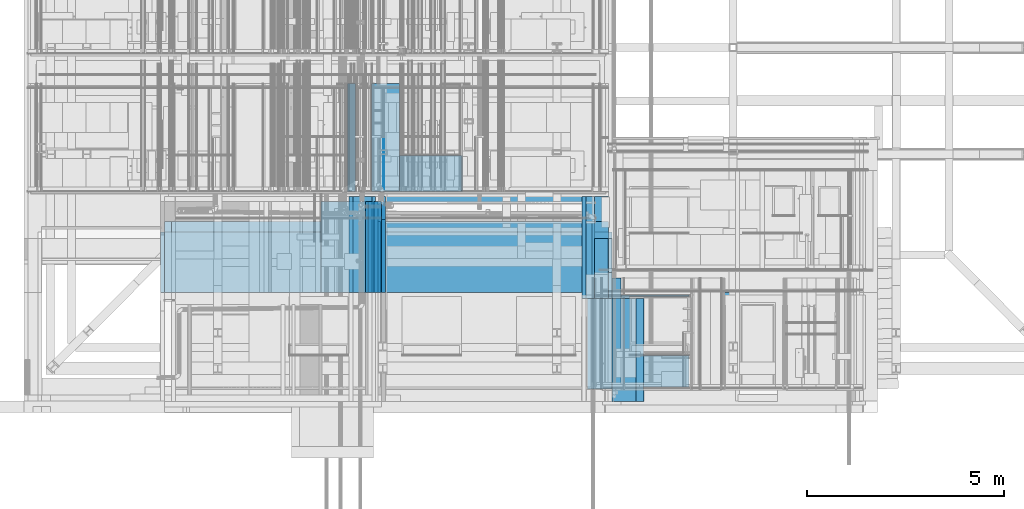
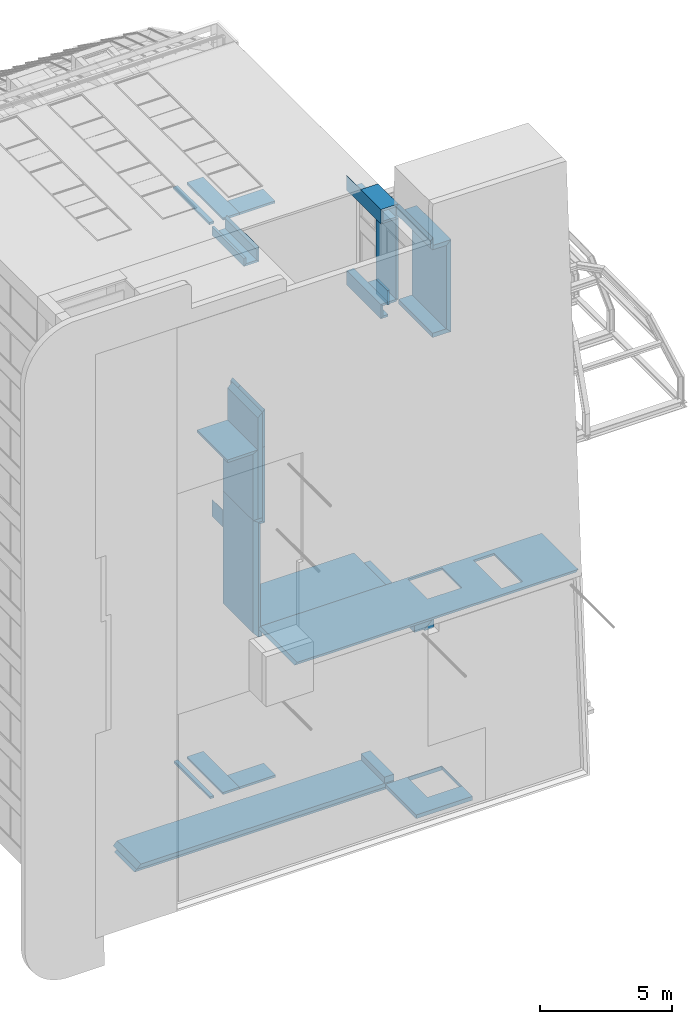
# One storey, part 13 of 583: 44 walls, 5 openings.
"""IFC2X3 building model written with IfcOpenShell, lengths in metres."""

from ifc_helpers import new_model, entity, si_unit, converted_unit, derived_unit, money_unit, direction, frame, frame_2d, origin_with_axes, place, context, subcontext, project, spatial, polyline, rectangle, outline, extrude, material, type_object, element, save


model = new_model("IFC2X3")

# Units and contexts
model_context = context("Model", 3, precision=1e-05, world=origin_with_axes(), true_north=direction((0.0, 1.0)))
body_context = subcontext(model_context, "Body", "Model", "MODEL_VIEW", scale=1.0)
ifc_project = project(units=[si_unit("LENGTHUNIT", "METRE"), si_unit("AREAUNIT", "SQUARE_METRE"), si_unit("VOLUMEUNIT", "CUBIC_METRE"), si_unit("ABSORBEDDOSEUNIT", "GRAY"), si_unit("AMOUNTOFSUBSTANCEUNIT", "MOLE"), si_unit("DOSEEQUIVALENTUNIT", "SIEVERT"), si_unit("ELECTRICCAPACITANCEUNIT", "FARAD"), si_unit("ELECTRICCHARGEUNIT", "COULOMB"), si_unit("ELECTRICCONDUCTANCEUNIT", "SIEMENS"), si_unit("ELECTRICCURRENTUNIT", "AMPERE"), si_unit("ELECTRICRESISTANCEUNIT", "OHM"), si_unit("ELECTRICVOLTAGEUNIT", "VOLT"), si_unit("ENERGYUNIT", "JOULE"), si_unit("FORCEUNIT", "NEWTON"), si_unit("FREQUENCYUNIT", "HERTZ"), si_unit("ILLUMINANCEUNIT", "LUX"), si_unit("INDUCTANCEUNIT", "HENRY"), si_unit("LUMINOUSFLUXUNIT", "LUMEN"), si_unit("LUMINOUSINTENSITYUNIT", "CANDELA"), si_unit("MAGNETICFLUXDENSITYUNIT", "TESLA"), si_unit("MAGNETICFLUXUNIT", "WEBER"), si_unit("MASSUNIT", "GRAM"), converted_unit("PLANEANGLEUNIT", "degree", entity("IfcReal", 0.0174532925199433), si_unit("PLANEANGLEUNIT", "RADIAN"), dimensions=[0, 0, 0, 0, 0, 0, 0]), si_unit("POWERUNIT", "WATT"), si_unit("PRESSUREUNIT", "PASCAL"), si_unit("RADIOACTIVITYUNIT", "BECQUEREL"), si_unit("SOLIDANGLEUNIT", "STERADIAN"), si_unit("THERMODYNAMICTEMPERATUREUNIT", "KELVIN"), si_unit("TIMEUNIT", "SECOND"), derived_unit("ACCELERATIONUNIT", [(si_unit("LENGTHUNIT", "METRE"), 1), (si_unit("TIMEUNIT", "SECOND"), -2)]), derived_unit("ANGULARVELOCITYUNIT", [(converted_unit("PLANEANGLEUNIT", "degree", entity("IfcReal", 0.0174532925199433), si_unit("PLANEANGLEUNIT", "RADIAN"), dimensions=[0, 0, 0, 0, 0, 0, 0]), 1), (si_unit("TIMEUNIT", "SECOND"), -1)]), derived_unit("CURVATUREUNIT", [(converted_unit("PLANEANGLEUNIT", "degree", entity("IfcReal", 0.0174532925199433), si_unit("PLANEANGLEUNIT", "RADIAN"), dimensions=[0, 0, 0, 0, 0, 0, 0]), 1), (si_unit("LENGTHUNIT", "METRE"), -1)]), derived_unit("DYNAMICVISCOSITYUNIT", [(si_unit("PRESSUREUNIT", "PASCAL"), 1), (si_unit("TIMEUNIT", "SECOND"), 1)]), derived_unit("HEATFLUXDENSITYUNIT", [(si_unit("POWERUNIT", "WATT"), 1), (si_unit("LENGTHUNIT", "METRE"), -2)]), derived_unit("HEATINGVALUEUNIT", [(si_unit("ENERGYUNIT", "JOULE"), 1), (si_unit("MASSUNIT", "GRAM"), -1)]), derived_unit("INTEGERCOUNTRATEUNIT", [(si_unit("TIMEUNIT", "SECOND"), -1)]), derived_unit("IONCONCENTRATIONUNIT", [(si_unit("MASSUNIT", "GRAM"), 1), (si_unit("VOLUMEUNIT", "CUBIC_METRE"), -1)]), derived_unit("ISOTHERMALMOISTURECAPACITYUNIT", [(si_unit("VOLUMEUNIT", "CUBIC_METRE"), 1), (si_unit("MASSUNIT", "GRAM"), -1)]), derived_unit("KINEMATICVISCOSITYUNIT", [(si_unit("AREAUNIT", "SQUARE_METRE"), 1), (si_unit("TIMEUNIT", "SECOND"), -1)]), derived_unit("LINEARFORCEUNIT", [(si_unit("FORCEUNIT", "NEWTON"), 1), (si_unit("LENGTHUNIT", "METRE"), -1)]), derived_unit("LINEARMOMENTUNIT", [(si_unit("FORCEUNIT", "NEWTON"), 1), (si_unit("LENGTHUNIT", "METRE"), -1)]), derived_unit("LINEARSTIFFNESSUNIT", [(si_unit("FORCEUNIT", "NEWTON"), 1), (si_unit("LENGTHUNIT", "METRE"), -1)]), derived_unit("LINEARVELOCITYUNIT", [(si_unit("LENGTHUNIT", "METRE"), 1), (si_unit("TIMEUNIT", "SECOND"), -1)]), derived_unit("LUMINOUSINTENSITYDISTRIBUTIONUNIT", [(si_unit("LUMINOUSINTENSITYUNIT", "CANDELA"), 1), (si_unit("LUMINOUSFLUXUNIT", "LUMEN"), -1)]), derived_unit("MASSDENSITYUNIT", [(si_unit("MASSUNIT", "GRAM"), 1), (si_unit("VOLUMEUNIT", "CUBIC_METRE"), -1)]), derived_unit("MASSFLOWRATEUNIT", [(si_unit("MASSUNIT", "GRAM"), 1), (si_unit("TIMEUNIT", "SECOND"), -1)]), derived_unit("MASSPERLENGTHUNIT", [(si_unit("MASSUNIT", "GRAM"), 1), (si_unit("LENGTHUNIT", "METRE"), -1)]), derived_unit("MODULUSOFELASTICITYUNIT", [(si_unit("FORCEUNIT", "NEWTON"), 1), (si_unit("AREAUNIT", "SQUARE_METRE"), -1)]), derived_unit("MODULUSOFLINEARSUBGRADEREACTIONUNIT", [(si_unit("FORCEUNIT", "NEWTON"), 1), (si_unit("LENGTHUNIT", "METRE"), -2)]), derived_unit("MODULUSOFROTATIONALSUBGRADEREACTIONUNIT", [(si_unit("FORCEUNIT", "NEWTON"), 1), (si_unit("LENGTHUNIT", "METRE"), 1)]), derived_unit("MODULUSOFSUBGRADEREACTIONUNIT", [(si_unit("FORCEUNIT", "NEWTON"), 1), (si_unit("VOLUMEUNIT", "CUBIC_METRE"), -1)]), derived_unit("MOISTUREDIFFUSIVITYUNIT", [(si_unit("VOLUMEUNIT", "CUBIC_METRE"), 1), (si_unit("TIMEUNIT", "SECOND"), -1)]), derived_unit("MOLECULARWEIGHTUNIT", [(si_unit("MASSUNIT", "GRAM"), 1), (si_unit("AMOUNTOFSUBSTANCEUNIT", "MOLE"), -1)]), derived_unit("PLANARFORCEUNIT", [(si_unit("FORCEUNIT", "NEWTON"), 1), (si_unit("LENGTHUNIT", "METRE"), -2)]), derived_unit("ROTATIONALFREQUENCYUNIT", [(si_unit("TIMEUNIT", "SECOND"), -1)]), derived_unit("ROTATIONALMASSUNIT", [(si_unit("MASSUNIT", "GRAM"), 1), (si_unit("LENGTHUNIT", "METRE"), 2)]), derived_unit("ROTATIONALSTIFFNESSUNIT", [(si_unit("FORCEUNIT", "NEWTON"), 1), (si_unit("LENGTHUNIT", "METRE"), 1), (converted_unit("PLANEANGLEUNIT", "degree", entity("IfcReal", 0.0174532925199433), si_unit("PLANEANGLEUNIT", "RADIAN"), dimensions=[0, 0, 0, 0, 0, 0, 0]), -1)]), derived_unit("SECTIONAREAINTEGRALUNIT", [(si_unit("LENGTHUNIT", "METRE"), 5)]), derived_unit("SECTIONMODULUSUNIT", [(si_unit("LENGTHUNIT", "METRE"), 3)]), derived_unit("SHEARMODULUSUNIT", [(si_unit("FORCEUNIT", "NEWTON"), 1), (si_unit("AREAUNIT", "SQUARE_METRE"), -1)]), derived_unit("SOUNDPOWERUNIT", [(si_unit("ENERGYUNIT", "JOULE"), 1), (si_unit("TIMEUNIT", "SECOND"), -1)]), derived_unit("SPECIFICHEATCAPACITYUNIT", [(si_unit("FORCEUNIT", "NEWTON"), 1), (si_unit("MASSUNIT", "GRAM"), -1), (si_unit("THERMODYNAMICTEMPERATUREUNIT", "KELVIN"), -1)]), derived_unit("TEMPERATUREGRADIENTUNIT", [(si_unit("THERMODYNAMICTEMPERATUREUNIT", "KELVIN"), 1), (si_unit("LENGTHUNIT", "METRE"), -1)]), derived_unit("THERMALADMITTANCEUNIT", [(si_unit("POWERUNIT", "WATT"), 1), (si_unit("AREAUNIT", "SQUARE_METRE"), -1), (si_unit("THERMODYNAMICTEMPERATUREUNIT", "KELVIN"), -1)]), derived_unit("THERMALCONDUCTANCEUNIT", [(si_unit("POWERUNIT", "WATT"), 1), (si_unit("LENGTHUNIT", "METRE"), -1), (si_unit("THERMODYNAMICTEMPERATUREUNIT", "KELVIN"), -1)]), derived_unit("THERMALEXPANSIONCOEFFICIENTUNIT", [(si_unit("THERMODYNAMICTEMPERATUREUNIT", "KELVIN"), -1)]), derived_unit("THERMALRESISTANCEUNIT", [(si_unit("AREAUNIT", "SQUARE_METRE"), 1), (si_unit("POWERUNIT", "WATT"), -1)]), derived_unit("THERMALTRANSMITTANCEUNIT", [(si_unit("POWERUNIT", "WATT"), 1), (si_unit("AREAUNIT", "SQUARE_METRE"), -1), (si_unit("THERMODYNAMICTEMPERATUREUNIT", "KELVIN"), -1)]), derived_unit("TORQUEUNIT", [(si_unit("FORCEUNIT", "NEWTON"), 1), (si_unit("LENGTHUNIT", "METRE"), 1)]), derived_unit("VAPORPERMEABILITYUNIT", [(si_unit("MASSUNIT", "GRAM"), 1), (si_unit("TIMEUNIT", "SECOND"), -1)]), derived_unit("VOLUMETRICFLOWRATEUNIT", [(si_unit("VOLUMEUNIT", "CUBIC_METRE"), 1), (si_unit("TIMEUNIT", "SECOND"), -1)]), derived_unit("WARPINGCONSTANTUNIT", [(si_unit("LENGTHUNIT", "METRE"), 6)]), derived_unit("WARPINGMOMENTUNIT", [(si_unit("FORCEUNIT", "NEWTON"), 1), (si_unit("LENGTHUNIT", "METRE"), 2)]), money_unit("GBP")], contexts=[model_context])

# Site, building, storey
site_placement = place(None, origin_with_axes())
site = spatial("IfcSite", under=ifc_project, at=site_placement, Name="Site", CompositionType="ELEMENT")
building_placement = place(site_placement, origin_with_axes())
building = spatial("IfcBuilding", under=site, at=building_placement, Name="Building01", CompositionType="ELEMENT")
storey_placement = place(building_placement, frame((0.0, 0.0, 20.78), z_axis=(0.0, 0.0, 1.0), x_axis=(1.0, 0.0, 0.0)))
storey = spatial("IfcBuildingStorey", under=building, at=storey_placement, Name="RL", CompositionType="ELEMENT", Elevation=20.78)

# Wall, openings
ifc_material_1 = material(Name="A_BSUK_WallsExternal_Brick")
wall_type_1 = type_object("IfcWallType", Name="A-Walls-ExternalBrick", PredefinedType="NOTDEFINED")
wall_1_placement = place(storey_placement, frame((8.971523, -0.16, -11.336962), z_axis=(0.0, 1.0, 0.0), x_axis=(1.0, 0.0, 3.756e-05)))
wall_1 = element("IfcWall", 1, at=wall_1_placement, inside=storey, type_object=wall_type_1, material=ifc_material_1, Name="A-Walls-ExternalBrick", ObjectType="A-Walls-ExternalBrick", context=body_context, shape_type="SweptSolid", body=[
    extrude(outline(polyline([(12.194522, 0.1), (-0.1, 0.1), (0.0, 0.0), (12.290885, 0.0), (12.194522, 0.1)])), origin_with_axes(), (0.0, 0.0, 1.0), 2.76),
])
opening_1_placement = place(wall_1_placement, frame((9.152584, 0.0, 0.358), z_axis=(0.0, 0.0, 1.0), x_axis=(1.0, 0.0, 0.0)))
element("IfcOpeningElement", 2, at=opening_1_placement, cuts=wall_1, Name="Opening", ObjectType="Opening", context=body_context, shape_type="SweptSolid", body=[
    extrude(rectangle(XDim=0.909, YDim=2.142, at=frame_2d((-0.4545, 1.071), x_axis=(-1.0, 0.0))), frame((0.0, 0.0, 0.0), z_axis=(0.0, 1.0, 0.0), x_axis=(-1.0, 0.0, 0.0)), (3.756e-05, 0.0, 1.0), 0.1),
])
opening_2_placement = place(wall_1_placement, frame((6.373289, 0.0, 1.458), z_axis=(0.0, 0.0, 1.0), x_axis=(1.0, 0.0, 0.0)))
element("IfcOpeningElement", 3, at=opening_2_placement, cuts=wall_1, Name="Opening", ObjectType="Opening", context=body_context, shape_type="SweptSolid", body=[
    extrude(rectangle(XDim=1.2, YDim=1.5, at=frame_2d((-0.75, 0.6), x_axis=(0.0, -1.0))), frame((0.0, 0.0, 0.0), z_axis=(0.0, 1.0, 0.0), x_axis=(-1.0, 0.0, 0.0)), (3.756e-05, 0.0, 1.0), 0.1),
])
opening_3_placement = place(wall_1_placement, frame((6.373289, 0.0, 1.158), z_axis=(0.0, 0.0, 1.0), x_axis=(1.0, 0.0, 0.0)))
element("IfcOpeningElement", 4, at=opening_3_placement, cuts=wall_1, Name="Opening", ObjectType="Opening", context=body_context, shape_type="SweptSolid", body=[
    extrude(rectangle(XDim=0.3, YDim=1.5, at=frame_2d((-0.75, 0.15), x_axis=(0.0, -1.0))), frame((0.0, 0.0, 0.0), z_axis=(0.0, 1.0, 0.0), x_axis=(-1.0, 0.0, 0.0)), (3.756e-05, 0.0, 1.0), 0.1),
])

# Walls
wall_2_placement = place(storey_placement, frame((14.914749, -0.16, 6.201733), z_axis=(0.0, 1.0, 0.0), x_axis=(-0.0148485, 0.0, -0.99988976)))
element("IfcWall", 5, at=wall_2_placement, inside=storey, type_object=wall_type_1, material=ifc_material_1, Name="A-Walls-ExternalBrick", ObjectType="A-Walls-ExternalBrick", context=body_context, shape_type="SweptSolid", body=[
    extrude(outline(polyline([(0.453506, 0.1), (0.101508, 0.1), (0.0, 0.0), (0.552027, 0.0), (0.453506, 0.1)])), origin_with_axes(), (0.0, 0.0, 1.0), 2.6),
])
wall_3_placement = place(storey_placement, frame((14.897172, -0.16, 1.791797), z_axis=(0.0, 1.0, 0.0), x_axis=(1.0, 0.0, 0.0)))
element("IfcWall", 6, at=wall_3_placement, inside=storey, type_object=wall_type_1, material=ifc_material_1, Name="A-Walls-ExternalBrick", ObjectType="A-Walls-ExternalBrick", context=body_context, shape_type="SweptSolid", body=[
    extrude(outline(polyline([(0.797851, 0.2), (0.0, 0.2), (0.0, 0.0), (0.598323, 0.0), (0.797851, 0.2)])), origin_with_axes(), (0.0, 0.0, 1.0), 2.6),
])
wall_4_placement = place(storey_placement, frame((15.495495, -0.16, 1.791797), z_axis=(0.0, 1.0, 0.0), x_axis=(0.00236365, 0.0, 0.99999721)))
element("IfcWall", 7, at=wall_4_placement, inside=storey, type_object=wall_type_1, material=ifc_material_1, Name="A-Walls-ExternalBrick", ObjectType="A-Walls-ExternalBrick", context=body_context, shape_type="SweptSolid", body=[
    extrude(outline(polyline([(4.058424, 0.2), (-0.199528, 0.2), (0.0, 0.0), (3.857958, 0.0), (4.058424, 0.2)])), origin_with_axes(), (0.0, 0.0, 1.0), 2.6),
])
wall_5_placement = place(storey_placement, frame((15.504614, -0.16, 5.649745), z_axis=(0.0, 1.0, 0.0), x_axis=(-1.0, 0.0, 3.652e-05)))
element("IfcWall", 8, at=wall_5_placement, inside=storey, type_object=wall_type_1, material=ifc_material_1, Name="A-Walls-ExternalBrick", ObjectType="A-Walls-ExternalBrick", context=body_context, shape_type="SweptSolid", body=[
    extrude(outline(polyline([(-0.200466, 0.2), (0.0, 0.0), (0.598062, 0.0), (0.598062, 0.2), (-0.200466, 0.2)])), origin_with_axes(), (0.0, 0.0, 1.0), 2.6),
])
wall_6_placement = place(storey_placement, frame((14.9, 3.099759, 1.15), z_axis=(0.0, 1.0, 0.0), x_axis=(0.0, 0.0, 1.0)))
element("IfcWall", 9, at=wall_6_placement, inside=storey, type_object=wall_type_1, material=ifc_material_1, Name="A-Walls-ExternalBrick", ObjectType="A-Walls-ExternalBrick", context=body_context, shape_type="SweptSolid", body=[
    extrude(rectangle(XDim=0.67, YDim=0.1, at=frame_2d((0.335, -0.05), x_axis=(1.0, 0.0))), origin_with_axes(), (0.0, 0.0, 1.0), 0.870241),
])
wall_7_placement = place(storey_placement, frame((8.971346, 2.6, -6.607653), z_axis=(0.0, 1.0, 0.0), x_axis=(3.756e-05, 0.0, -1.0)))
element("IfcWall", 10, at=wall_7_placement, inside=storey, type_object=wall_type_1, material=ifc_material_1, Name="A-Walls-ExternalBrick", ObjectType="A-Walls-ExternalBrick", context=body_context, shape_type="SweptSolid", body=[
    extrude(outline(polyline([(4.829305, 0.1), (-0.1, 0.1), (0.0, 0.0), (4.729309, 0.0), (4.829305, 0.1)])), origin_with_axes(), (0.0, 0.0, 1.0), 2.3),
])
wall_8_placement = place(storey_placement, frame((8.237758, 2.6, 5.534179), z_axis=(0.0, 1.0, 0.0), x_axis=(0.0, 0.0, 1.0)))
element("IfcWall", 11, at=wall_8_placement, inside=storey, type_object=wall_type_1, material=ifc_material_1, Name="A-Walls-ExternalBrick", ObjectType="A-Walls-ExternalBrick", context=body_context, shape_type="SweptSolid", body=[
    extrude(outline(polyline([(0.381054, 0.1), (0.1, 0.1), (0.0, 0.0), (0.38105, 0.0), (0.381054, 0.1)])), origin_with_axes(), (0.0, 0.0, 1.0), 2.43),
])
wall_9_placement = place(storey_placement, frame((8.909531, 2.6, 5.534179), z_axis=(0.0, 1.0, 0.0), x_axis=(-1.0, 0.0, 0.0)))
element("IfcWall", 12, at=wall_9_placement, inside=storey, type_object=wall_type_1, material=ifc_material_1, Name="A-Walls-ExternalBrick", ObjectType="A-Walls-ExternalBrick", context=body_context, shape_type="SweptSolid", body=[
    extrude(outline(polyline([(0.571773, 0.1), (0.1, 0.1), (0.0, 0.0), (0.671773, 0.0), (0.571773, 0.1)])), origin_with_axes(), (0.0, 0.0, 1.0), 2.43),
])
wall_10_placement = place(storey_placement, frame((8.909531, 2.6, 6.201285), z_axis=(0.0, 1.0, 0.0), x_axis=(0.0, 0.0, -1.0)))
element("IfcWall", 13, at=wall_10_placement, inside=storey, type_object=wall_type_1, material=ifc_material_1, Name="A-Walls-ExternalBrick", ObjectType="A-Walls-ExternalBrick", context=body_context, shape_type="SweptSolid", body=[
    extrude(outline(polyline([(0.567106, 0.1), (0.1, 0.1), (0.0, 0.0), (0.667106, 0.0), (0.567106, 0.1)])), origin_with_axes(), (0.0, 0.0, 1.0), 2.43),
])
wall_11_placement = place(storey_placement, frame((14.134094, 2.44, 6.201639), z_axis=(0.0, 1.0, 0.0), x_axis=(1.0, 0.0, 0.0)))
element("IfcWall", 14, at=wall_11_placement, inside=storey, type_object=wall_type_1, material=ifc_material_1, Name="A-Walls-ExternalBrick", ObjectType="A-Walls-ExternalBrick", context=body_context, shape_type="SweptSolid", body=[
    extrude(outline(polyline([(0.665906, 0.1), (0.100006, 0.1), (0.0, 0.0), (0.765906, 0.0), (0.665906, 0.1)])), origin_with_axes(), (0.0, 0.0, 1.0), 1.53),
])
wall_12_placement = place(storey_placement, frame((14.9, 2.44, 6.201639), z_axis=(0.0, 1.0, 0.0), x_axis=(0.0, 0.0, -1.0)))
element("IfcWall", 15, at=wall_12_placement, inside=storey, type_object=wall_type_1, material=ifc_material_1, Name="A-Walls-ExternalBrick", ObjectType="A-Walls-ExternalBrick", context=body_context, shape_type="SweptSolid", body=[
    extrude(outline(polyline([(0.671639, 0.1), (0.1, 0.1), (0.0, 0.0), (0.671639, 0.0), (0.671639, 0.1)])), origin_with_axes(), (0.0, 0.0, 1.0), 1.53),
])
wall_13_placement = place(storey_placement, frame((14.134133, 2.44, 5.52997), z_axis=(0.0, 1.0, 0.0), x_axis=(-5.782e-05, 0.0, 1.0)))
element("IfcWall", 16, at=wall_13_placement, inside=storey, type_object=wall_type_1, material=ifc_material_1, Name="A-Walls-ExternalBrick", ObjectType="A-Walls-ExternalBrick", context=body_context, shape_type="SweptSolid", body=[
    extrude(outline(polyline([(0.571663, 0.1), (0.1, 0.1), (0.0, 0.0), (0.671669, 0.0), (0.571663, 0.1)])), origin_with_axes(), (0.0, 0.0, 1.0), 2.59),
])
wall_14_placement = place(storey_placement, frame((14.45, 2.6, -11.436962), z_axis=(0.0, 1.0, 0.0), x_axis=(-1.0, 0.0, 0.0)))
element("IfcWall", 17, at=wall_14_placement, inside=storey, type_object=wall_type_1, material=ifc_material_1, Name="A-Walls-ExternalBrick", ObjectType="A-Walls-ExternalBrick", context=body_context, shape_type="SweptSolid", body=[
    extrude(outline(polyline([(5.478477, 0.1), (0.0, 0.1), (0.0, 0.0), (5.578473, 0.0), (5.478477, 0.1)])), origin_with_axes(), (0.0, 0.0, 1.0), 2.43),
])
wall_15_placement = place(storey_placement, frame((14.9, 2.6, -20.779321), z_axis=(0.0, 1.0, 0.0), x_axis=(-1.0, 0.0, 0.0)))
element("IfcWall", 18, at=wall_15_placement, inside=storey, type_object=wall_type_1, material=ifc_material_1, Name="A-Walls-ExternalBrick", ObjectType="A-Walls-ExternalBrick", context=body_context, shape_type="SweptSolid", body=[
    extrude(outline(polyline([(11.340668, 0.1), (0.0, 0.1), (0.0, 0.0), (11.440668, 0.0), (11.340668, 0.1)])), origin_with_axes(), (0.0, 0.0, 1.0), 1.53),
])
wall_16_placement = place(storey_placement, frame((14.134296, 2.44, 1.150008), z_axis=(0.0, 1.0, 0.0), x_axis=(0.0, 0.0, 1.0)))
element("IfcWall", 19, at=wall_16_placement, inside=storey, type_object=wall_type_1, material=ifc_material_1, Name="A-Walls-ExternalBrick", ObjectType="A-Walls-ExternalBrick", context=body_context, shape_type="SweptSolid", body=[
    extrude(outline(polyline([(0.569979, 0.1), (0.100006, 0.1), (0.0, 0.0), (0.669985, 0.0), (0.569979, 0.1)])), origin_with_axes(), (0.0, 0.0, 1.0), 2.59),
])
wall_17_placement = place(storey_placement, frame((14.449011, 2.44, 1.150026), z_axis=(0.0, 1.0, 0.0), x_axis=(-1.0, 0.0, -5.782e-05)))
element("IfcWall", 20, at=wall_17_placement, inside=storey, type_object=wall_type_1, material=ifc_material_1, Name="A-Walls-ExternalBrick", ObjectType="A-Walls-ExternalBrick", context=body_context, shape_type="SweptSolid", body=[
    extrude(outline(polyline([(0.214709, 0.1), (0.0, 0.1), (0.0, 0.0), (0.314715, 0.0), (0.214709, 0.1)])), origin_with_axes(), (0.0, 0.0, 1.0), 2.59),
])
wall_18_placement = place(storey_placement, frame((14.449011, 2.44, 1.819974), z_axis=(0.0, 1.0, 0.0), x_axis=(-1.0, 0.0, 5.782e-05)))
element("IfcWall", 21, at=wall_18_placement, inside=storey, type_object=wall_type_1, material=ifc_material_1, Name="A-Walls-ExternalBrick", ObjectType="A-Walls-ExternalBrick", context=body_context, shape_type="SweptSolid", body=[
    extrude(outline(polyline([(0.314715, 0.0), (0.0, 0.0), (0.0, -0.1), (0.214709, -0.1), (0.314715, 0.0)])), origin_with_axes(), (0.0, 0.0, 1.0), 2.59),
])
wall_19_placement = place(storey_placement, frame((14.449011, 2.44, 1.819974), z_axis=(0.0, 1.0, 0.0), x_axis=(1.0, 0.0, 5.782e-05)))
element("IfcWall", 22, at=wall_19_placement, inside=storey, type_object=wall_type_1, material=ifc_material_1, Name="A-Walls-ExternalBrick", ObjectType="A-Walls-ExternalBrick", context=body_context, shape_type="SweptSolid", body=[
    extrude(outline(polyline([(0.348155, 0.1), (0.0, 0.1), (0.0, 0.0), (0.448161, 0.0), (0.348155, 0.1)])), origin_with_axes(), (0.0, 0.0, 1.0), 1.53),
])
wall_20_placement = place(storey_placement, frame((14.8, 2.44, 5.530009), z_axis=(0.0, 1.0, 0.0), x_axis=(-1.0, 0.0, -5.782e-05)))
element("IfcWall", 23, at=wall_20_placement, inside=storey, type_object=wall_type_1, material=ifc_material_1, Name="A-Walls-ExternalBrick", ObjectType="A-Walls-ExternalBrick", context=body_context, shape_type="SweptSolid", body=[
    extrude(outline(polyline([(0.565867, 0.1), (-6e-06, 0.1), (0.0, 0.0), (0.665867, 0.0), (0.565867, 0.1)])), origin_with_axes(), (0.0, 0.0, 1.0), 2.59),
])
wall_21_placement = place(storey_placement, frame((14.797172, 2.44, 1.82), z_axis=(0.0, 1.0, 0.0), x_axis=(0.0, 0.0, 1.0)))
element("IfcWall", 24, at=wall_21_placement, inside=storey, type_object=wall_type_1, material=ifc_material_1, Name="A-Walls-ExternalBrick", ObjectType="A-Walls-ExternalBrick", context=body_context, shape_type="SweptSolid", body=[
    extrude(outline(polyline([(3.709964, 0.1), (0.0, 0.1), (0.0, 0.0), (3.70997, 0.0), (3.709964, 0.1)])), origin_with_axes(), (0.0, 0.0, 1.0), 1.53),
])
ifc_material_2 = material(Name="A_BSUK_WallsExternal_Block")
wall_type_2 = type_object("IfcWallType", Name="A-Walls-ExternalBlock", PredefinedType="NOTDEFINED")
wall_22_placement = place(storey_placement, frame((14.271539, 0.148, -11.625735), z_axis=(0.0, 1.0, 0.0), x_axis=(1.0, 0.0, 0.0)))
element("IfcWall", 25, at=wall_22_placement, inside=storey, type_object=wall_type_2, material=ifc_material_2, Name="A-Walls-ExternalBlock", ObjectType="A-Walls-ExternalBlock", context=body_context, shape_type="SweptSolid", body=[
    extrude(outline(polyline([(0.450353, 0.379), (0.0, 0.379), (0.0, 0.0), (0.856353, 0.0), (0.450353, 0.379)])), origin_with_axes(), (0.0, 0.0, 1.0), 2.812),
])
wall_23_placement = place(storey_placement, frame((14.721892, 0.148, -12.074709), z_axis=(0.0, 1.0, 0.0), x_axis=(0.0, 0.0, 1.0)))
element("IfcWall", 26, at=wall_23_placement, inside=storey, type_object=wall_type_2, material=ifc_material_2, Name="A-Walls-ExternalBlock", ObjectType="A-Walls-ExternalBlock", context=body_context, shape_type="SweptSolid", body=[
    extrude(outline(polyline([(0.448974, 0.406), (0.0, 0.406), (0.0, 0.0), (0.069974, 0.0), (0.448974, 0.406)])), origin_with_axes(), (0.0, 0.0, 1.0), 2.812),
])
wall_24_placement = place(storey_placement, frame((8.852854, 2.6, -6.34865), z_axis=(0.0, 1.0, 0.0), x_axis=(0.0, 0.0, 1.0)))
element("IfcWall", 27, at=wall_24_placement, inside=storey, type_object=wall_type_2, material=ifc_material_2, Name="A-Walls-ExternalBlock", ObjectType="A-Walls-ExternalBlock", context=body_context, shape_type="SweptSolid", body=[
    extrude(outline(polyline([(4.871617, 0.200292), (0.0, 0.200292), (0.0, 0.0), (4.671426, 0.0), (4.871617, 0.200292)])), origin_with_axes(), (0.0, 0.0, 1.0), 2.3),
])
wall_25_placement = place(storey_placement, frame((9.053146, 2.6, -6.50765), z_axis=(0.0, 1.0, 0.0), x_axis=(-1.0, 0.0, 0.0)))
element("IfcWall", 28, at=wall_25_placement, inside=storey, type_object=wall_type_2, material=ifc_material_2, Name="A-Walls-ExternalBlock", ObjectType="A-Walls-ExternalBlock", context=body_context, shape_type="SweptSolid", body=[
    extrude(outline(polyline([(0.405736, 0.159), (0.0, 0.159), (0.0, 0.0), (0.181736, 0.0), (0.405736, 0.159)])), origin_with_axes(), (0.0, 0.0, 1.0), 2.3),
])
wall_26_placement = place(storey_placement, frame((8.64741, 2.6, -11.550001), z_axis=(0.0, 1.0, 0.0), x_axis=(0.0, 0.0, 1.0)))
element("IfcWall", 29, at=wall_26_placement, inside=storey, type_object=wall_type_2, material=ifc_material_2, Name="A-Walls-ExternalBlock", ObjectType="A-Walls-ExternalBlock", context=body_context, shape_type="SweptSolid", body=[
    extrude(outline(polyline([(5.042351, 0.224), (-0.264901, 0.224), (0.0, 0.0), (5.201351, 0.0), (5.042351, 0.224)])), origin_with_axes(), (0.0, 0.0, 1.0), 2.3),
])
wall_27_placement = place(storey_placement, frame((14.799918, 2.6, -11.606873), z_axis=(0.0, 1.0, 0.0), x_axis=(-1.0, 0.0, 0.0)))
element("IfcWall", 30, at=wall_27_placement, inside=storey, type_object=wall_type_2, material=ifc_material_2, Name="A-Walls-ExternalBlock", ObjectType="A-Walls-ExternalBlock", context=body_context, shape_type="SweptSolid", body=[
    extrude(outline(polyline([(5.928777, 0.17), (0.0, 0.17), (0.0, 0.0), (5.764777, 0.0), (5.928777, 0.17)])), origin_with_axes(), (0.0, 0.0, 1.0), 1.8),
])
wall_28_placement = place(storey_placement, frame((9.035141, 2.6, -11.606873), z_axis=(0.0, 1.0, 0.0), x_axis=(0.0, 0.0, -1.0)))
element("IfcWall", 31, at=wall_28_placement, inside=storey, type_object=wall_type_2, material=ifc_material_2, Name="A-Walls-ExternalBlock", ObjectType="A-Walls-ExternalBlock", context=body_context, shape_type="SweptSolid", body=[
    extrude(outline(polyline([(-0.17, 0.164), (0.0, 0.0), (0.207627, 0.0), (0.207627, 0.164), (-0.17, 0.164)])), origin_with_axes(), (0.0, 0.0, 1.0), 1.8),
])
wall_29_placement = place(storey_placement, frame((3.733339, 2.6, -20.499643), z_axis=(0.0, 1.0, 0.0), x_axis=(1.0, 0.0, 3.756e-05)))
element("IfcWall", 32, at=wall_29_placement, inside=storey, type_object=wall_type_2, material=ifc_material_2, Name="A-Walls-ExternalBlock", ObjectType="A-Walls-ExternalBlock", context=body_context, shape_type="SweptSolid", body=[
    extrude(outline(polyline([(11.066661, 0.18), (-0.173917, 0.18), (0.0, 0.0), (11.066661, 0.0), (11.066661, 0.18)])), origin_with_axes(), (0.0, 0.0, 1.0), 1.8),
])
wall_30_placement = place(storey_placement, frame((14.389942, 2.6, -20.214298), z_axis=(0.0, 1.0, 0.0), x_axis=(1.0, 0.0, 0.0)))
element("IfcWall", 33, at=wall_30_placement, inside=storey, type_object=wall_type_2, material=ifc_material_2, Name="A-Walls-ExternalBlock", ObjectType="A-Walls-ExternalBlock", context=body_context, shape_type="SweptSolid", body=[
    extrude(rectangle(XDim=0.410058, YDim=0.284945, at=frame_2d((0.205029, 0.142473), x_axis=(-1.0, 0.0))), origin_with_axes(), (0.0, 0.0, 1.0), 1.8),
])
wall_31_placement = place(storey_placement, frame((8.64741, 2.6, -6.34865), z_axis=(0.0, 1.0, 0.0), x_axis=(0.0, 0.0, 1.0)))
element("IfcWall", 34, at=wall_31_placement, inside=storey, type_object=wall_type_2, material=ifc_material_2, Name="A-Walls-ExternalBlock", ObjectType="A-Walls-ExternalBlock", context=body_context, shape_type="SweptSolid", body=[
    extrude(outline(polyline([(3.195596, 0.205), (0.0, 0.205), (0.0, 0.0), (3.075596, 0.0), (3.195596, 0.205)])), origin_with_axes(), (0.0, 0.0, 1.0), 2.3),
])
wall_32_placement = place(storey_placement, frame((7.519919, 2.6, -3.153054), z_axis=(0.0, 1.0, 0.0), x_axis=(1.0, 0.0, 0.0)))
element("IfcWall", 35, at=wall_32_placement, inside=storey, type_object=wall_type_2, material=ifc_material_2, Name="A-Walls-ExternalBlock", ObjectType="A-Walls-ExternalBlock", context=body_context, shape_type="SweptSolid", body=[
    extrude(outline(polyline([(1.12749, 0.12), (0.0, 0.12), (0.0, 0.0), (1.33249, 0.0), (1.12749, 0.12)])), origin_with_axes(), (0.0, 0.0, 1.0), 2.3),
])
wall_33_placement = place(storey_placement, frame((9.153054, 2.6, -6.607646), z_axis=(0.0, 1.0, 0.0), x_axis=(-1.0, 0.0, -3.756e-05)))
element("IfcWall", 36, at=wall_33_placement, inside=storey, type_object=wall_type_2, material=ifc_material_2, Name="A-Walls-ExternalBlock", ObjectType="A-Walls-ExternalBlock", context=body_context, shape_type="SweptSolid", body=[
    extrude(outline(polyline([(0.281708, 0.1), (0.1, 0.1), (0.0, 0.0), (0.181708, 0.0), (0.281708, 0.1)])), origin_with_axes(), (0.0, 0.0, 1.0), 2.3),
])
wall_34_placement = place(storey_placement, frame((9.152922, 2.6, -3.095), z_axis=(0.0, 1.0, 0.0), x_axis=(3.756e-05, 0.0, -1.0)))
element("IfcWall", 37, at=wall_34_placement, inside=storey, type_object=wall_type_2, material=ifc_material_2, Name="A-Walls-ExternalBlock", ObjectType="A-Walls-ExternalBlock", context=body_context, shape_type="SweptSolid", body=[
    extrude(outline(polyline([(3.412646, 0.1), (0.0, 0.1), (0.0, 0.0), (3.512646, 0.0), (3.412646, 0.1)])), origin_with_axes(), (0.0, 0.0, 1.0), 2.3),
])
wall_35_placement = place(storey_placement, frame((9.152989, 2.598662, -3.095), z_axis=(0.0, 1.0, 0.0), x_axis=(3.756e-05, 0.0, 1.0)))
element("IfcWall", 38, at=wall_35_placement, inside=storey, type_object=wall_type_2, material=ifc_material_2, Name="A-Walls-ExternalBlock", ObjectType="A-Walls-ExternalBlock", context=body_context, shape_type="SweptSolid", body=[
    extrude(outline(polyline([(1.717976, 0.0), (0.0, 0.0), (0.0, -0.1), (1.617968, -0.1), (1.717976, 0.0)])), frame((0.0, 0.0, 0.0), z_axis=(-0.00077894, 0.0, 0.9999997), x_axis=(0.9999997, 0.0, 0.00077894)), (0.00077894, 0.0, 0.9999997), 1.851),
])
wall_36_placement = place(storey_placement, frame((9.152995, 4.44958, -2.695003), z_axis=(0.0, 1.0, 0.0), x_axis=(3.756e-05, 0.0, 1.0)))
element("IfcWall", 39, at=wall_36_placement, inside=storey, type_object=wall_type_2, material=ifc_material_2, Name="A-Walls-ExternalBlock", ObjectType="A-Walls-ExternalBlock", context=body_context, shape_type="SweptSolid", body=[
    extrude(outline(polyline([(1.317979, 0.0), (0.0, 0.0), (0.0, -0.1), (1.217971, -0.1), (1.317979, 0.0)])), frame((0.0, 0.0, 0.0), z_axis=(-0.00066262, 0.0, 0.99999978), x_axis=(0.99999978, 0.0, 0.00066262)), (0.00066262, 0.0, 0.99999978), 0.579547),
])
wall_37_placement = place(storey_placement, frame((8.4, 5.15, -20.61), z_axis=(0.0, 1.0, 0.0), x_axis=(-1.0, 0.0, 0.0)))
element("IfcWall", 40, at=wall_37_placement, inside=storey, type_object=wall_type_2, material=ifc_material_2, Name="A-Walls-ExternalBlock", ObjectType="A-Walls-ExternalBlock", context=body_context, shape_type="SweptSolid", body=[
    extrude(rectangle(XDim=0.167, YDim=0.1, at=frame_2d((0.0835, 0.05), x_axis=(-1.0, 0.0))), origin_with_axes(), (0.0, 0.0, 1.0), 2.74),
])
wall_38_placement = place(storey_placement, frame((9.51418, 5.15, 5.93), z_axis=(0.0, 1.0, 0.0), x_axis=(-1.0, 0.0, 0.0)))
element("IfcWall", 41, at=wall_38_placement, inside=storey, type_object=wall_type_2, material=ifc_material_2, Name="A-Walls-ExternalBlock", ObjectType="A-Walls-ExternalBlock", context=body_context, shape_type="SweptSolid", body=[
    extrude(rectangle(XDim=0.1, YDim=0.71418, at=frame_2d((0.35709, 0.05), x_axis=(0.0, -1.0))), origin_with_axes(), (0.0, 0.0, 1.0), 2.74),
])
wall_39_placement = place(storey_placement, frame((8.4, 5.15, 5.93), z_axis=(0.0, 1.0, 0.0), x_axis=(-1.0, 0.0, 0.0)))
element("IfcWall", 42, at=wall_39_placement, inside=storey, type_object=wall_type_2, material=ifc_material_2, Name="A-Walls-ExternalBlock", ObjectType="A-Walls-ExternalBlock", context=body_context, shape_type="SweptSolid", body=[
    extrude(rectangle(XDim=0.199674, YDim=0.1, at=frame_2d((0.099837, 0.05), x_axis=(-1.0, 0.0))), origin_with_axes(), (0.0, 0.0, 1.0), 2.74),
])
wall_40_placement = place(storey_placement, frame((11.103, 5.15, -20.61), z_axis=(0.0, 1.0, 0.0), x_axis=(-1.0, 0.0, 0.0)))
element("IfcWall", 43, at=wall_40_placement, inside=storey, type_object=wall_type_2, material=ifc_material_2, Name="A-Walls-ExternalBlock", ObjectType="A-Walls-ExternalBlock", context=body_context, shape_type="SweptSolid", body=[
    extrude(rectangle(XDim=1.58882, YDim=0.1, at=frame_2d((0.79441, 0.05), x_axis=(1.0, 0.0))), origin_with_axes(), (0.0, 0.0, 1.0), 0.915),
])
wall_41_placement = place(storey_placement, frame((11.08018, 5.15, 5.93), z_axis=(0.0, 1.0, 0.0), x_axis=(-1.0, 0.0, 0.0)))
element("IfcWall", 44, at=wall_41_placement, inside=storey, type_object=wall_type_2, material=ifc_material_2, Name="A-Walls-ExternalBlock", ObjectType="A-Walls-ExternalBlock", context=body_context, shape_type="SweptSolid", body=[
    extrude(rectangle(XDim=1.566, YDim=0.1, at=frame_2d((0.783, 0.05), x_axis=(1.0, 0.0))), origin_with_axes(), (0.0, 0.0, 1.0), 0.915),
])
wall_42_placement = place(storey_placement, frame((9.51418, 5.15, -20.61), z_axis=(0.0, 1.0, 0.0), x_axis=(-1.0, 0.0, 0.0)))
element("IfcWall", 45, at=wall_42_placement, inside=storey, type_object=wall_type_2, material=ifc_material_2, Name="A-Walls-ExternalBlock", ObjectType="A-Walls-ExternalBlock", context=body_context, shape_type="SweptSolid", body=[
    extrude(rectangle(XDim=0.1, YDim=0.714171, at=frame_2d((0.357085, 0.05), x_axis=(0.0, -1.0))), origin_with_axes(), (0.0, 0.0, 1.0), 2.74),
])

# Wall, openings
ifc_material_3 = material(Name="A_BSUK_WallsInternal_Block")
wall_type_3 = type_object("IfcWallType", Name="A-Walls-InternalBlock", PredefinedType="NOTDEFINED")
wall_43_placement = place(storey_placement, frame((14.389953, 0.198, -20.499243), z_axis=(0.0, 1.0, 0.0), x_axis=(1.0, 0.0, 3.756e-05)))
wall_43 = element("IfcWall", 46, at=wall_43_placement, inside=storey, type_object=wall_type_3, material=ifc_material_3, Name="A-Walls-InternalBlock", ObjectType="A-Walls-InternalBlock", context=body_context, shape_type="SweptSolid", body=[
    extrude(rectangle(XDim=2.457492, YDim=0.18, at=frame_2d((1.228746, 0.09), x_axis=(-1.0, 0.0))), origin_with_axes(), (0.0, 0.0, 1.0), 2.337),
])
opening_4_placement = place(wall_43_placement, frame((0.95283, 0.18, 0.8), z_axis=(0.0, 0.0, 1.0), x_axis=(1.0, 0.0, 0.0)))
element("IfcOpeningElement", 47, at=opening_4_placement, cuts=wall_43, Name="Opening", ObjectType="Opening", context=body_context, shape_type="SweptSolid", body=[
    extrude(rectangle(XDim=0.3, YDim=1.5, at=frame_2d((0.75, 0.15), x_axis=(0.0, -1.0))), frame((0.0, 0.0, 0.0), z_axis=(0.0, -1.0, 0.0), x_axis=(1.0, 0.0, 0.0)), (3.756e-05, 0.0, 1.0), 0.18),
])
opening_5_placement = place(wall_43_placement, frame((0.95283, 0.18, 1.1), z_axis=(0.0, 0.0, 1.0), x_axis=(1.0, 0.0, 0.0)))
element("IfcOpeningElement", 48, at=opening_5_placement, cuts=wall_43, Name="Opening", ObjectType="Opening", context=body_context, shape_type="SweptSolid", body=[
    extrude(rectangle(XDim=1.2, YDim=1.5, at=frame_2d((0.75, 0.6), x_axis=(0.0, -1.0))), frame((0.0, 0.0, 0.0), z_axis=(0.0, -1.0, 0.0), x_axis=(1.0, 0.0, 0.0)), (3.756e-05, 0.0, 1.0), 0.18),
])

# Wall
ifc_material_4 = material(Name="A_BSUK_Walls_Timber")
wall_type_4 = type_object("IfcWallType", Name="default", PredefinedType="NOTDEFINED")
wall_44_placement = place(storey_placement, frame((9.105, 5.15, -8.676129), z_axis=(0.0, 1.0, 0.0), x_axis=(0.0, 0.0, 1.0)))
element("IfcWall", 49, at=wall_44_placement, inside=storey, type_object=wall_type_4, material=ifc_material_4, Name="default", ObjectType="default", context=body_context, shape_type="SweptSolid", body=[
    extrude(rectangle(XDim=0.774714, YDim=0.015, at=frame_2d((0.387357, 0.0075), x_axis=(-1.0, 0.0))), origin_with_axes(), (0.0, 0.0, 1.0), 1.375),
])

save(model, "model.ifc")
